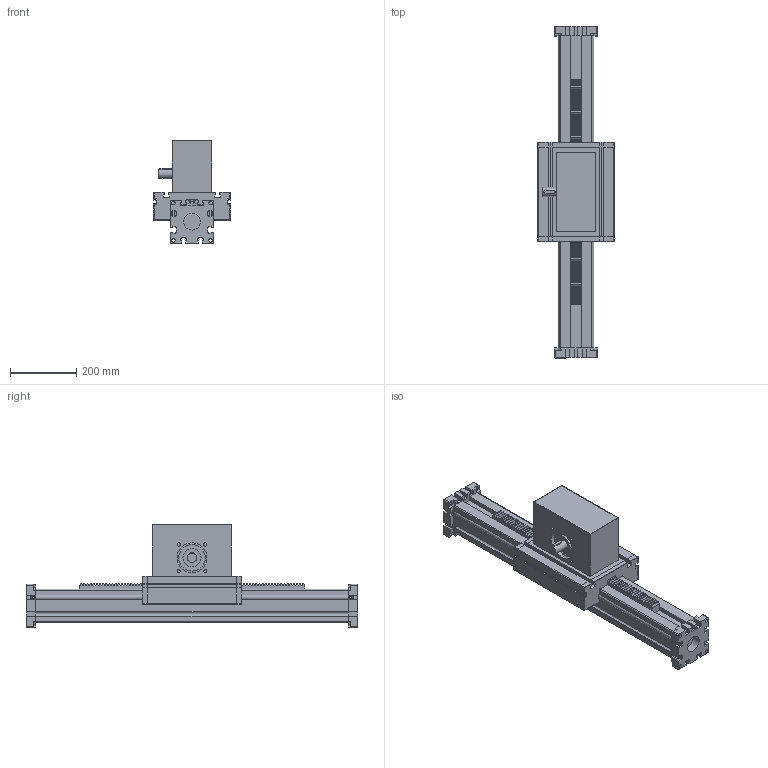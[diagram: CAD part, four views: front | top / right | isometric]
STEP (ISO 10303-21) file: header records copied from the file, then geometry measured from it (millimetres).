
FILE_DESCRIPTION (( 'STEP AP214' ), '1' );
FILE_NAME ('ELDZA100.STEP', '2022-06-28T10:12:00', ( '' ), ( '' ), 'SwSTEP 2.0', 'SolidWorks 2020', '' );
FILE_SCHEMA (( 'AUTOMOTIVE_DESIGN' ));
Length unit declared in the file: millimetre
Products named in the file (5): carriage^ELDZA100_carriage 0; ELDZA100; timing belt reverse unit^ELDZA100_shaft pos. 1; bearing block^ELDZA100_2x guide rods; profile^ELDZA100_2x guide rods
Assembly tree (5 placements, depth 2):
  ELDZA100
    profile^ELDZA100_2x guide rods
    carriage^ELDZA100_carriage 0
    timing belt reverse unit^ELDZA100_shaft pos. 1
    bearing block^ELDZA100_2x guide rods  x2
Bounding box: 230 x 1000 x 309 mm (x, y, z)
Volume: 17786153.7 mm3; surface area: 1413023.3 mm2
Topology: 15 solids, 15 shells, 1078 faces, 3028 edges, 1988 vertices
Faces by surface type: plane 874, cylinder 176, torus 8, bspline 8, cone 8, sphere 4
Entity records: 28914 total; most frequent: CARTESIAN_POINT 5359, ORIENTED_EDGE 4950, DIRECTION 4519, EDGE_CURVE 2475, LINE 2155, VECTOR 2155, VERTEX_POINT 1630, AXIS2_PLACEMENT_3D 1182
